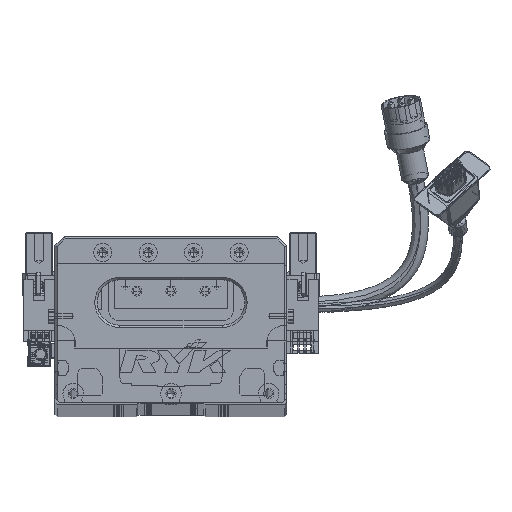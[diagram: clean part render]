
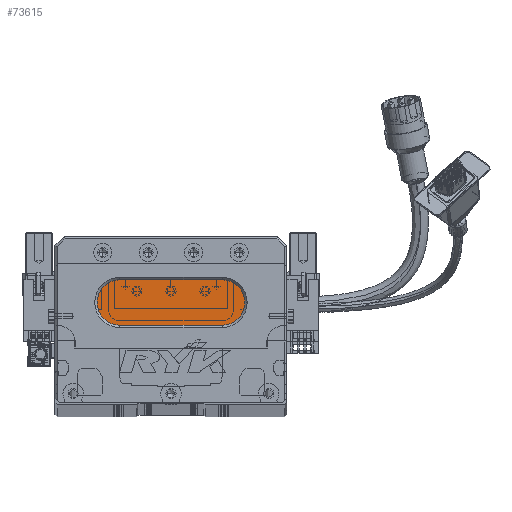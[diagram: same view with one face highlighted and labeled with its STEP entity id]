
A CAD part, top view. The second image highlights one B-rep face of the part: STEP entity #73615.
In plain terms, the highlighted planar face has unit normal (0, 0, 1) as drawn and (0, 0, -1) by its records, which use the part's own axes.
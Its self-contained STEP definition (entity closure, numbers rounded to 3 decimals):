
#3621 = CIRCLE ( 'NONE', #67998, 10. ) ;
#4634 = CARTESIAN_POINT ( 'NONE',  ( 18.5, 44., 13. ) ) ;
#5448 = CIRCLE ( 'NONE', #72791, 10. ) ;
#8403 = AXIS2_PLACEMENT_3D ( 'NONE', #24023, #9684, #10295 ) ;
#9454 = ORIENTED_EDGE ( 'NONE', *, *, #12694, .T. ) ;
#9684 = DIRECTION ( 'NONE',  ( 0., 0., -1. ) ) ;
#10295 = DIRECTION ( 'NONE',  ( -1., 0., 0. ) ) ;
#10346 = CIRCLE ( 'NONE', #8403, 10. ) ;
#10349 = DIRECTION ( 'NONE',  ( -1., 0., 0. ) ) ;
#12694 = EDGE_CURVE ( 'NONE', #20448, #86804, #67072, .T. ) ;
#16391 = CARTESIAN_POINT ( 'NONE',  ( 73.5, 34., 13. ) ) ;
#19575 = DIRECTION ( 'NONE',  ( -1., 0., 0. ) ) ;
#20448 = VERTEX_POINT ( 'NONE', #16391 ) ;
#21122 = PLANE ( 'NONE',  #88639 ) ;
#23515 = CARTESIAN_POINT ( 'NONE',  ( 28.5, 34., 13. ) ) ;
#24023 = CARTESIAN_POINT ( 'NONE',  ( 73.5, 44., 13. ) ) ;
#25661 = EDGE_CURVE ( 'NONE', #86804, #51942, #3621, .T. ) ;
#27757 = EDGE_CURVE ( 'NONE', #51942, #40201, #5448, .T. ) ;
#30284 = CARTESIAN_POINT ( 'NONE',  ( 73.5, 34., 13. ) ) ;
#32276 = DIRECTION ( 'NONE',  ( 0., 0., -1. ) ) ;
#36958 = VERTEX_POINT ( 'NONE', #38884 ) ;
#37287 = CARTESIAN_POINT ( 'NONE',  ( 28.5, 44., 13. ) ) ;
#38884 = CARTESIAN_POINT ( 'NONE',  ( 73.5, 54., 13. ) ) ;
#38906 = CARTESIAN_POINT ( 'NONE',  ( 28.5, 54., 13. ) ) ;
#40201 = VERTEX_POINT ( 'NONE', #38906 ) ;
#48300 = ORIENTED_EDGE ( 'NONE', *, *, #70883, .T. ) ;
#49130 = DIRECTION ( 'NONE',  ( 0., 0., -1. ) ) ;
#49584 = ORIENTED_EDGE ( 'NONE', *, *, #27757, .T. ) ;
#49730 = CARTESIAN_POINT ( 'NONE',  ( 73.5, 44., 13. ) ) ;
#51030 = DIRECTION ( 'NONE',  ( -1., 0., 0. ) ) ;
#51449 = ORIENTED_EDGE ( 'NONE', *, *, #71409, .T. ) ;
#51942 = VERTEX_POINT ( 'NONE', #4634 ) ;
#52971 = CARTESIAN_POINT ( 'NONE',  ( 28.5, 44., 13. ) ) ;
#60513 = VECTOR ( 'NONE', #64533, 1000. ) ;
#64533 = DIRECTION ( 'NONE',  ( 1., 0., 0. ) ) ;
#66062 = VECTOR ( 'NONE', #86303, 1000. ) ;
#67072 = LINE ( 'NONE', #30284, #66062 ) ;
#67998 = AXIS2_PLACEMENT_3D ( 'NONE', #52971, #32276, #10349 ) ;
#68908 = FACE_OUTER_BOUND ( 'NONE', #75313, .T. ) ;
#70883 = EDGE_CURVE ( 'NONE', #40201, #36958, #85595, .T. ) ;
#71409 = EDGE_CURVE ( 'NONE', #36958, #20448, #10346, .T. ) ;
#71829 = CARTESIAN_POINT ( 'NONE',  ( 73.5, 54., 13. ) ) ;
#72791 = AXIS2_PLACEMENT_3D ( 'NONE', #37287, #85422, #51030 ) ;
#73615 = ADVANCED_FACE ( 'NONE', ( #68908 ), #21122, .T. ) ;
#75313 = EDGE_LOOP ( 'NONE', ( #51449, #9454, #80855, #49584, #48300 ) ) ;
#80855 = ORIENTED_EDGE ( 'NONE', *, *, #25661, .T. ) ;
#85422 = DIRECTION ( 'NONE',  ( 0., 0., -1. ) ) ;
#85595 = LINE ( 'NONE', #71829, #60513 ) ;
#86303 = DIRECTION ( 'NONE',  ( -1., 0., 0. ) ) ;
#86804 = VERTEX_POINT ( 'NONE', #23515 ) ;
#88639 = AXIS2_PLACEMENT_3D ( 'NONE', #49730, #49130, #19575 ) ;
